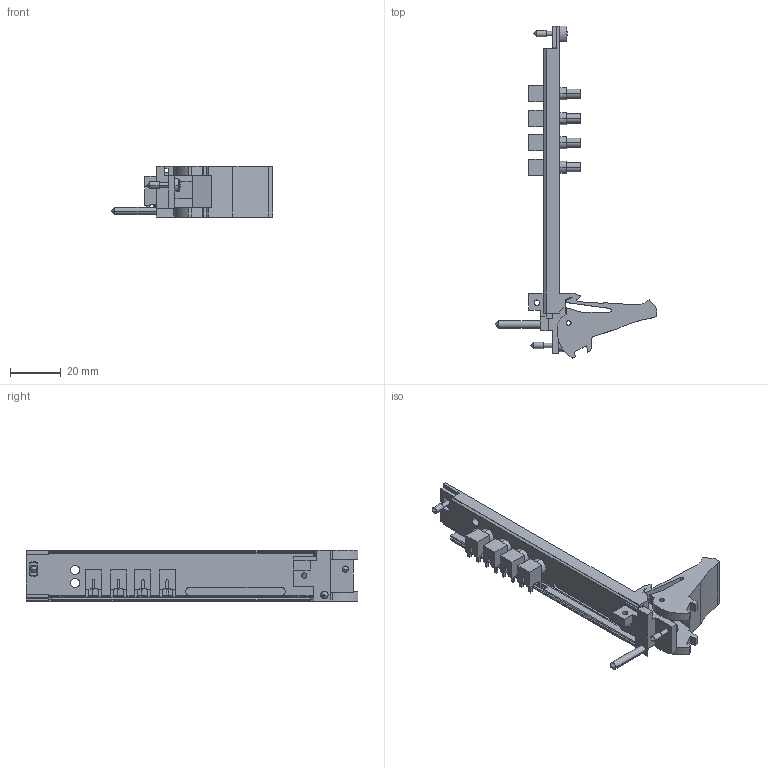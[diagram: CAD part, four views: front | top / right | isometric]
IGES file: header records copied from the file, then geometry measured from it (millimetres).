
Start section:  PTC IGES file: cu_pxi-5412.igs
Global section: file name: cu_pxi-5412.igs; native system: Pro/ENGINEER by Parametric Technology Corporation; preprocessor: 2006080; author: jjorden; organization: Unknown; date: 091229.153744; units: inch
Bounding box: 63.53 x 130.51 x 20.31 mm (x, y, z)
Surface area: 17393.5 mm2 (no closed solid volume)
Topology: 0 solids, 0 shells, 532 faces, 2792 edges, 2788 vertices
Faces by surface type: bspline 388, revolution 144
